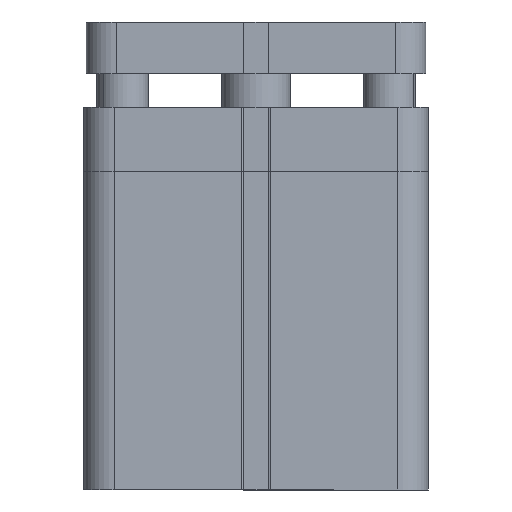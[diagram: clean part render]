
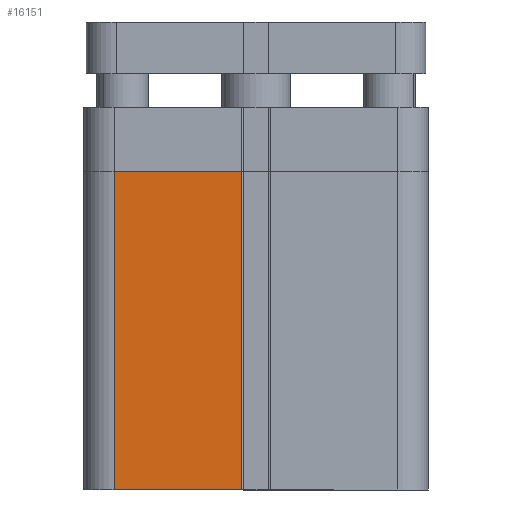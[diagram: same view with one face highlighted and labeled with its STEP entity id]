
A CAD part, left-side view. The second image highlights one B-rep face of the part: STEP entity #16151.
In plain terms, the highlighted planar face has unit normal (-1, 0, 0).
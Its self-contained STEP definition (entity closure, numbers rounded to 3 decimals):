
#76 = VECTOR ( 'NONE', #9897, 1000. ) ;
#333 = PLANE ( 'NONE',  #9319 ) ;
#394 = DIRECTION ( 'NONE',  ( 0., 1., 0. ) ) ;
#729 = EDGE_CURVE ( 'NONE', #6230, #15656, #3244, .T. ) ;
#1309 = VECTOR ( 'NONE', #11285, 1000. ) ;
#2828 = CARTESIAN_POINT ( 'NONE',  ( -80., 3.3, -30. ) ) ;
#2921 = DIRECTION ( 'NONE',  ( 1., 0., 0. ) ) ;
#3043 = CARTESIAN_POINT ( 'NONE',  ( -80., 33., -30. ) ) ;
#3082 = EDGE_LOOP ( 'NONE', ( #7999, #13094, #3562, #10573 ) ) ;
#3243 = CARTESIAN_POINT ( 'NONE',  ( -80., 40., -30. ) ) ;
#3244 = LINE ( 'NONE', #5181, #16965 ) ;
#3562 = ORIENTED_EDGE ( 'NONE', *, *, #13182, .F. ) ;
#3830 = DIRECTION ( 'NONE',  ( 0., 0., -1. ) ) ;
#4902 = CARTESIAN_POINT ( 'NONE',  ( -80., 3.3, 44. ) ) ;
#5181 = CARTESIAN_POINT ( 'NONE',  ( -80., 3.3, 14. ) ) ;
#6230 = VERTEX_POINT ( 'NONE', #4902 ) ;
#6613 = VERTEX_POINT ( 'NONE', #3043 ) ;
#6827 = LINE ( 'NONE', #7742, #7031 ) ;
#7031 = VECTOR ( 'NONE', #13135, 1000. ) ;
#7742 = CARTESIAN_POINT ( 'NONE',  ( -80., 33., 14. ) ) ;
#7999 = ORIENTED_EDGE ( 'NONE', *, *, #729, .F. ) ;
#8170 = EDGE_CURVE ( 'NONE', #10993, #6230, #15645, .T. ) ;
#8585 = CARTESIAN_POINT ( 'NONE',  ( -80., 33., 44. ) ) ;
#9319 = AXIS2_PLACEMENT_3D ( 'NONE', #14829, #2921, #394 ) ;
#9897 = DIRECTION ( 'NONE',  ( 0., -1., 0. ) ) ;
#10573 = ORIENTED_EDGE ( 'NONE', *, *, #11307, .T. ) ;
#10993 = VERTEX_POINT ( 'NONE', #15929 ) ;
#11285 = DIRECTION ( 'NONE',  ( 0., -1., 0. ) ) ;
#11307 = EDGE_CURVE ( 'NONE', #6613, #15656, #12310, .T. ) ;
#12310 = LINE ( 'NONE', #3243, #76 ) ;
#13094 = ORIENTED_EDGE ( 'NONE', *, *, #8170, .F. ) ;
#13135 = DIRECTION ( 'NONE',  ( 0., 0., 1. ) ) ;
#13182 = EDGE_CURVE ( 'NONE', #6613, #10993, #6827, .T. ) ;
#14829 = CARTESIAN_POINT ( 'NONE',  ( -80., -40., 14. ) ) ;
#15645 = LINE ( 'NONE', #8585, #1309 ) ;
#15656 = VERTEX_POINT ( 'NONE', #2828 ) ;
#15929 = CARTESIAN_POINT ( 'NONE',  ( -80., 33., 44. ) ) ;
#16151 = ADVANCED_FACE ( 'NONE', ( #16273 ), #333, .F. ) ;
#16273 = FACE_OUTER_BOUND ( 'NONE', #3082, .T. ) ;
#16965 = VECTOR ( 'NONE', #3830, 1000. ) ;
